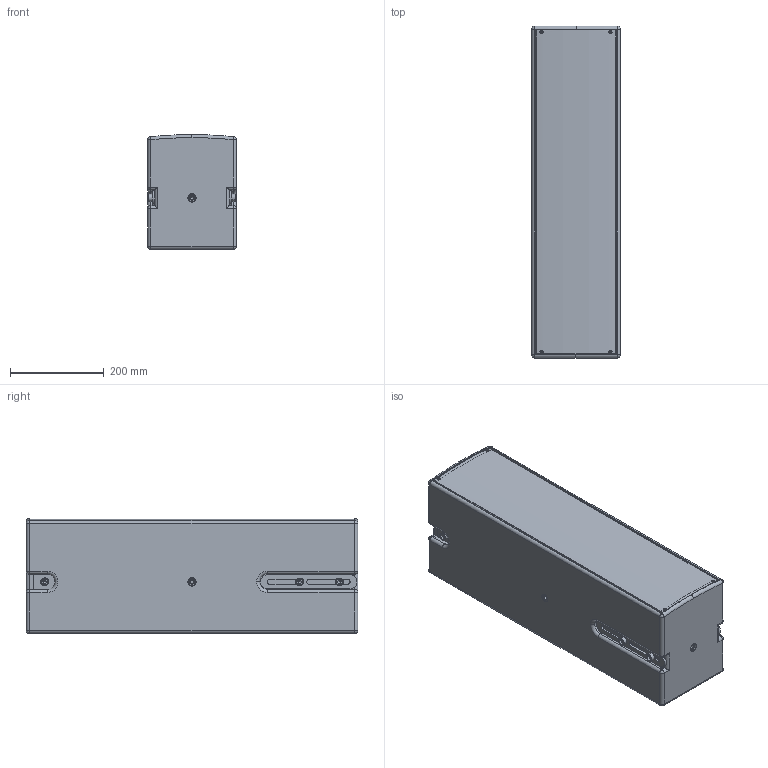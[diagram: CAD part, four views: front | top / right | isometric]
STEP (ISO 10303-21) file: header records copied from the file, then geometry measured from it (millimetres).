
FILE_DESCRIPTION (( 'STEP AP203' ), '1' );
FILE_NAME ('GL16-Sub 3D.STEP', '2022-07-28T07:21:57', ( '' ), ( '' ), 'SwSTEP 2.0', 'SolidWorks 2009', '' );
FILE_SCHEMA (( 'CONFIG_CONTROL_DESIGN' ));
Length unit declared in the file: millimetre
Products named in the file (1): GL16-Sub 3D
Bounding box: 189 x 708 x 245 mm (x, y, z)
Volume: 7025001.4 mm3; surface area: 1713779.2 mm2
Topology: 59 solids, 66 shells, 4603 faces, 11886 edges, 7318 vertices
Faces by surface type: plane 1849, cylinder 1084, bspline 970, cone 284, torus 250, sphere 166
Entity records: 167661 total; most frequent: CARTESIAN_POINT 62872, ORIENTED_EDGE 22728, DIRECTION 20380, EDGE_CURVE 11364, AXIS2_PLACEMENT_3D 7214, VERTEX_POINT 7058, LINE 5952, VECTOR 5952
